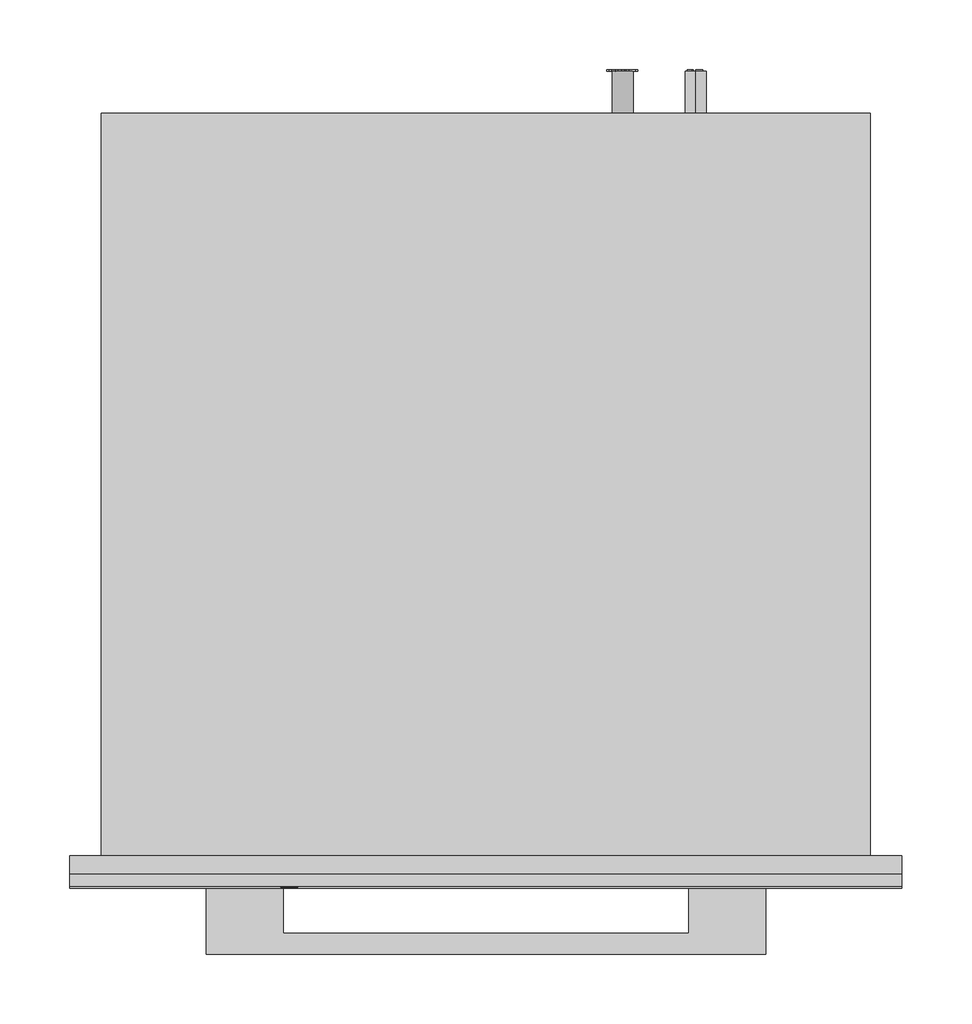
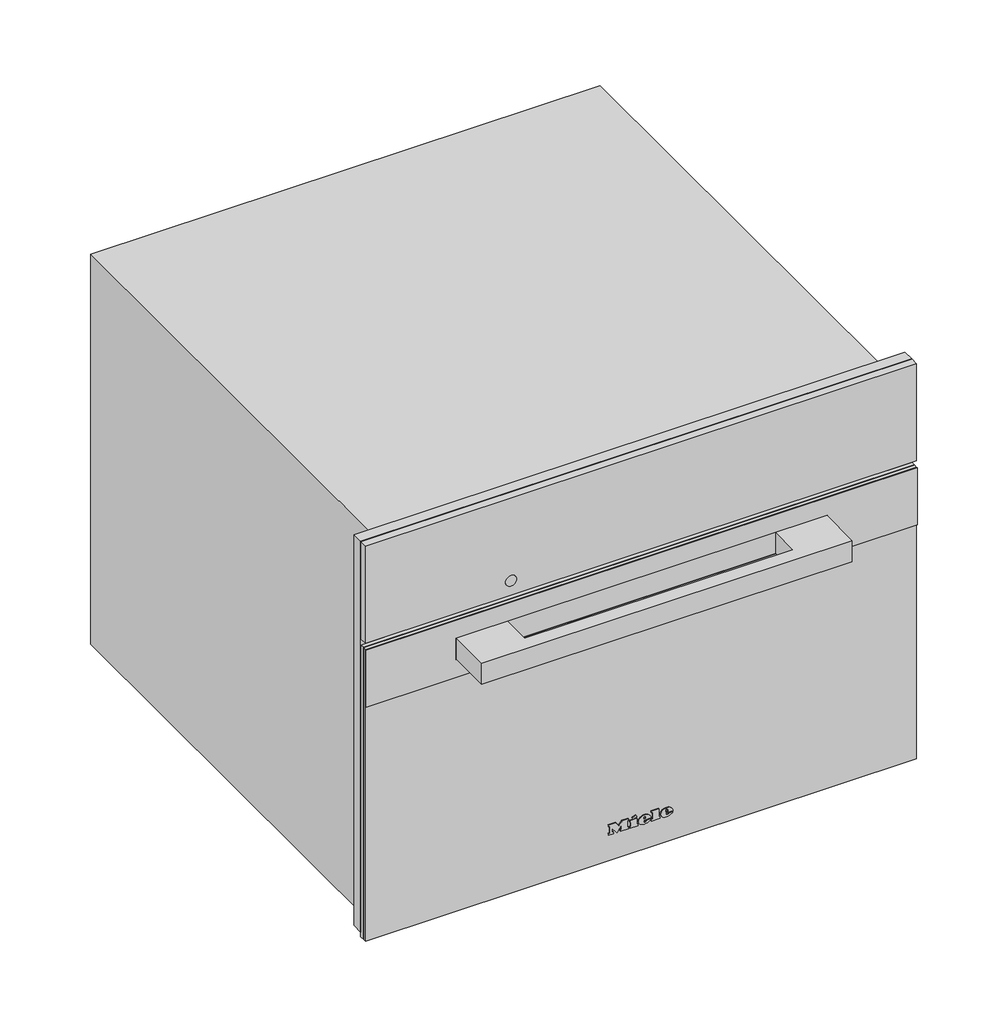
# Not in any storey: 1 proxy.
"""IFC4 building model written with IfcOpenShell, lengths in millimetres."""

import ifcopenshell
import ifcopenshell.guid

model = None  # the IFC model being written
_history = None  # IfcOwnerHistory: only IFC2X3 demands one
_inside = {}  # id of a spatial element -> (the spatial element, [elements in it])
_under = {}  # id of a project, library or spatial element -> (it, [spatial elements below it])
_declared = {}  # id of a project -> (the project, [libraries it declares])
_typed = {}  # id of a type object -> (the type object, [elements of that type])
_made_of = {}  # id of a material, layer set ... -> (it, [elements and type objects made of it])


def new_model(schema):
    """Start an empty IFC model of exactly this schema.

    Asked for "IFC4X3", IfcOpenShell would pick the latest addendum, in which some entities
    have other attributes; the version numbers below select the first issue.
    IFC2X3 requires an IfcOwnerHistory on every rooted entity: one is made here for all.
    """
    global model, _history
    if schema == "IFC4X3":
        model = ifcopenshell.file(schema_version=(4, 3, 0, 0))
    else:
        model = ifcopenshell.file(schema=schema)
    _inside.clear()
    _under.clear()
    _declared.clear()
    _typed.clear()
    _made_of.clear()
    _history = None
    if model.schema == "IFC2X3":
        org = make("IfcOrganization", Name="unknown")
        user = make(
            "IfcPersonAndOrganization",
            ThePerson=make("IfcPerson", FamilyName="unknown"),
            TheOrganization=org,
        )
        app = make(
            "IfcApplication",
            ApplicationDeveloper=org,
            Version="unknown",
            ApplicationFullName="unknown",
            ApplicationIdentifier="unknown",
        )
        _history = make(
            "IfcOwnerHistory",
            OwningUser=user,
            OwningApplication=app,
            ChangeAction="ADDED",
            CreationDate=0,
        )
    return model


def make(cls, **values):
    """One entity of the class cls with the attributes given. An attribute that is None is left unset."""
    return model.create_entity(
        cls, **{name: value for name, value in values.items() if value is not None}
    )


def rooted(cls, **values):
    """An entity with a GlobalId (a new one), such as an element, a storey or a relation."""
    return make(cls, GlobalId=ifcopenshell.guid.new(), OwnerHistory=_history, **values)


def si_unit(unit_type, name, prefix=None):
    """IfcSIUnit, for example si_unit("LENGTHUNIT", "METRE", prefix="MILLI")."""
    return make("IfcSIUnit", UnitType=unit_type, Prefix=prefix, Name=name)


def assignment(units):
    """IfcUnitAssignment: the units of a project."""
    return None if units is None else make("IfcUnitAssignment", Units=units)


def point(xyz):
    """IfcCartesianPoint."""
    return None if xyz is None else make("IfcCartesianPoint", Coordinates=xyz)


def direction(xyz):
    """IfcDirection."""
    return None if xyz is None else make("IfcDirection", DirectionRatios=xyz)


def frame(location, z_axis=None, x_axis=None):
    """IfcAxis2Placement3D, a coordinate frame: its origin and axes. An axis left out is left unset."""
    return make(
        "IfcAxis2Placement3D",
        Location=point(location),
        Axis=direction(z_axis),
        RefDirection=direction(x_axis),
    )


def frame_2d(location, x_axis=None):
    """IfcAxis2Placement2D, a coordinate frame in the plane: its origin and x axis."""
    return make(
        "IfcAxis2Placement2D", Location=point(location), RefDirection=direction(x_axis)
    )


def origin():
    """The frame at (0, 0, 0) with its axes left unset."""
    return frame((0.0, 0.0, 0.0))


def place(relative_to, where):
    """IfcLocalPlacement: puts the frame where relative to a parent placement (None: the world)."""
    return make(
        "IfcLocalPlacement", PlacementRelTo=relative_to, RelativePlacement=where
    )


def context(
    kind, dimensions, precision=None, world=None, true_north=None, identifier=None
):
    """IfcGeometricRepresentationContext, for example the 3D "Model" context."""
    return make(
        "IfcGeometricRepresentationContext",
        ContextIdentifier=identifier,
        ContextType=kind,
        CoordinateSpaceDimension=dimensions,
        Precision=precision,
        WorldCoordinateSystem=world,
        TrueNorth=true_north,
    )


def project(units=None, contexts=None):
    """IfcProject with its units and contexts."""
    return rooted(
        "IfcProject",
        Name="project",
        RepresentationContexts=contexts,
        UnitsInContext=assignment(units),
    )


def spatial(cls, under=None, at=None, **own):
    """A site, building, storey or space (cls), placed at a placement, below another one or the project."""
    s = rooted(cls, ObjectPlacement=at, **own)
    if under is not None:
        _under.setdefault(under.id(), (under, []))[1].append(s)
    return s


def polyline(points):
    """IfcPolyline through the points."""
    return make("IfcPolyline", Points=[point(p) for p in points])


def circle_curve(where, radius):
    """IfcCircle in the frame where."""
    return make("IfcCircle", Position=where, Radius=radius)


def ellipse_curve(where, semi_axis1, semi_axis2):
    """IfcEllipse in the frame where."""
    return make(
        "IfcEllipse", Position=where, SemiAxis1=semi_axis1, SemiAxis2=semi_axis2
    )


def trimmed(basis, trim1, trim2, sense, master):
    """IfcTrimmedCurve: the piece of a basis curve between two trims."""
    return make(
        "IfcTrimmedCurve",
        BasisCurve=basis,
        Trim1=trim1,
        Trim2=trim2,
        SenseAgreement=sense,
        MasterRepresentation=master,
    )


def segment(curve, same_sense, transition):
    """IfcCompositeCurveSegment."""
    return make(
        "IfcCompositeCurveSegment",
        Transition=transition,
        SameSense=same_sense,
        ParentCurve=curve,
    )


def composite_curve(segments, self_intersect=None):
    """IfcCompositeCurve: segments joined end to end."""
    return make("IfcCompositeCurve", Segments=segments, SelfIntersect=self_intersect)


def outline(outer, holes=None, kind="AREA"):
    """IfcArbitraryClosedProfileDef: a profile drawn as a closed curve; with holes, ...WithVoids."""
    if holes is None:
        return make("IfcArbitraryClosedProfileDef", ProfileType=kind, OuterCurve=outer)
    return make(
        "IfcArbitraryProfileDefWithVoids",
        ProfileType=kind,
        OuterCurve=outer,
        InnerCurves=holes,
    )


def extrude(swept, where, along, depth):
    """IfcExtrudedAreaSolid: the profile swept, set in the frame where, extruded along a direction by depth."""
    return make(
        "IfcExtrudedAreaSolid",
        SweptArea=swept,
        Position=where,
        ExtrudedDirection=direction(along),
        Depth=depth,
    )


def faces_of(points, faces, orient=None, outer=None):
    """IfcFace entities. A face is a list of loops; a loop is a list of indices into points, from 0.

    orient and outer hold one flag for each loop. By default every Orientation is true, the
    first loop of a face is its IfcFaceOuterBound and the others are IfcFaceBound.
    """
    made = []
    for i, loops in enumerate(faces):
        bounds = []
        for j, loop in enumerate(loops):
            is_outer = j == 0 if outer is None else outer[i][j]
            bounds.append(
                make(
                    "IfcFaceOuterBound" if is_outer else "IfcFaceBound",
                    Bound=make("IfcPolyLoop", Polygon=[points[k] for k in loop]),
                    Orientation=True if orient is None else orient[i][j],
                )
            )
        made.append(make("IfcFace", Bounds=bounds))
    return made


def faceted_brep(points, faces, orient=None, outer=None, voids=None):
    """IfcFacetedBrep: a solid bounded by flat faces; with voids (closed shells), ...WithVoids."""
    shared = [point(p) for p in points]
    hull = make("IfcClosedShell", CfsFaces=faces_of(shared, faces, orient, outer))
    if voids is None:
        return make("IfcFacetedBrep", Outer=hull)
    return make(
        "IfcFacetedBrepWithVoids",
        Outer=hull,
        Voids=[
            make(cls, CfsFaces=faces_of(shared, fs, o, b)) for cls, fs, o, b in voids
        ],
    )


def shape(context_of_items, identifier, shape_type, items):
    """IfcShapeRepresentation: the items that make up one representation, for example the "Body"."""
    return make(
        "IfcShapeRepresentation",
        ContextOfItems=context_of_items,
        RepresentationIdentifier=identifier,
        RepresentationType=shape_type,
        Items=items,
    )


def source(mapping_origin, context_of_items, identifier, shape_type, items):
    """IfcRepresentationMap: a shape defined once, which mapped items show again and again."""
    return make(
        "IfcRepresentationMap",
        MappingOrigin=mapping_origin,
        MappedRepresentation=shape(context_of_items, identifier, shape_type, items),
    )


def transform(
    local_origin,
    x_axis=None,
    y_axis=None,
    z_axis=None,
    scale=None,
    scale2=None,
    scale3=None,
    uniform=True,
):
    """IfcCartesianTransformationOperator3D, or its non-uniform kind. x_axis, y_axis, z_axis: its Axis1, 2, 3."""
    if uniform:
        return make(
            "IfcCartesianTransformationOperator3D",
            Axis1=direction(x_axis),
            Axis2=direction(y_axis),
            LocalOrigin=point(local_origin),
            Scale=scale,
            Axis3=direction(z_axis),
        )
    return make(
        "IfcCartesianTransformationOperator3DnonUniform",
        Axis1=direction(x_axis),
        Axis2=direction(y_axis),
        LocalOrigin=point(local_origin),
        Scale=scale,
        Axis3=direction(z_axis),
        Scale2=scale2,
        Scale3=scale3,
    )


def mapped(mapping_source, mapping_target):
    """IfcMappedItem: shows the shape of a source again, moved by a transform."""
    return make(
        "IfcMappedItem", MappingSource=mapping_source, MappingTarget=mapping_target
    )


def made_of(thing, what):
    """Note that an element or type object is made of a material, layer set ...; save() writes the relation."""
    if what is not None:
        _made_of.setdefault(what.id(), (what, []))[1].append(thing)
    return thing


def element(
    cls,
    number,
    at=None,
    inside=None,
    cuts=None,
    type_object=None,
    material=None,
    context=None,
    identifier="Body",
    shape_type=None,
    held_by="IfcProductDefinitionShape",
    body=None,
    shapes=None,
    **own,
):
    """One element of the class cls, such as IfcWall. Its Tag is "e" and its number.

    at: its placement. inside: the storey or other place that contains it. cuts: it is an
    opening in that element (IfcRelVoidsElement). A single representation is given by context,
    identifier, shape_type and body (its items); several are given by shapes. held_by: the class
    of the entity that holds the representations. save() writes the other relations.
    """
    e = rooted(cls, Tag="e%d" % number, ObjectPlacement=at, **own)
    if body is not None:
        shapes = [shape(context, identifier, shape_type, body)]
    if shapes is not None:
        e.Representation = make(held_by, Representations=shapes)
    if inside is not None:
        _inside.setdefault(inside.id(), (inside, []))[1].append(e)
    if cuts is not None:
        rooted(
            "IfcRelVoidsElement", RelatingBuildingElement=cuts, RelatedOpeningElement=e
        )
    if type_object is not None:
        _typed.setdefault(type_object.id(), (type_object, []))[1].append(e)
    return made_of(e, material)


def aggregate(whole, parts):
    """IfcRelAggregates: a whole, such as a stair, and the parts it consists of."""
    return rooted("IfcRelAggregates", RelatingObject=whole, RelatedObjects=parts)


def save(model, path):
    """Write the relations noted so far, then the file.

    IfcRelAggregates (storeys below a building ...), IfcRelContainedInSpatialStructure (elements
    in a storey), IfcRelDefinesByType, IfcRelAssociatesMaterial and IfcRelDeclares: one each for
    every whole, place, type object, material and project.
    """
    for whole, parts in _under.values():
        aggregate(whole, parts)
    for where, things in _inside.values():
        rooted(
            "IfcRelContainedInSpatialStructure",
            RelatedElements=things,
            RelatingStructure=where,
        )
    for kind, things in _typed.values():
        rooted("IfcRelDefinesByType", RelatedObjects=things, RelatingType=kind)
    for what, things in _made_of.values():
        rooted("IfcRelAssociatesMaterial", RelatedObjects=things, RelatingMaterial=what)
    for by, libraries in _declared.values():
        rooted("IfcRelDeclares", RelatingContext=by, RelatedDefinitions=libraries)
    model.write(path)


def plane_surface(at):
    """IfcPlane: the flat surface through the origin of the frame at, square to its z axis."""
    return make("IfcPlane", Position=at)


def cylinder_surface(at, radius):
    """IfcCylindricalSurface: all points at the distance radius from the z axis of the frame at."""
    return make("IfcCylindricalSurface", Position=at, Radius=radius)


def revolved_surface(curve, axis_point, axis_direction):
    """IfcSurfaceOfRevolution: the curve turned about the line through axis_point along axis_direction."""
    return make(
        "IfcSurfaceOfRevolution",
        SweptCurve=make("IfcArbitraryOpenProfileDef", ProfileType="CURVE", Curve=curve),
        AxisPosition=make("IfcAxis1Placement", Location=point(axis_point), Axis=direction(axis_direction)),
    )


def extruded_surface(curve, direction_of_extrusion, depth):
    """IfcSurfaceOfLinearExtrusion: the curve pushed along a direction by depth."""
    return make(
        "IfcSurfaceOfLinearExtrusion",
        SweptCurve=make("IfcArbitraryOpenProfileDef", ProfileType="CURVE", Curve=curve),
        ExtrudedDirection=direction(direction_of_extrusion),
        Depth=depth,
    )


def advanced_brep(points, edges, surfaces, faces):
    """IfcAdvancedBrep: a solid bounded by faces that lie on surfaces and meet in shared edges.

    An edge is (start, end): straight between two places in points (the first is 0);
    or (start, end, curve); or (start, end, curve, False) where it runs against its curve.
    A face is (place in surfaces, loops), or (place, loops, False) where it looks against
    its surface's normal. A loop lists edges by number (the first is 1), with a minus sign
    where the edge is run from its end to its start. The first loop is the outer one.
    """
    corners = [point(p) for p in points]
    vertices = [make("IfcVertexPoint", VertexGeometry=c) for c in corners]
    made = []
    for start, end, *more in edges:
        made.append(
            make(
                "IfcEdgeCurve",
                EdgeStart=vertices[start],
                EdgeEnd=vertices[end],
                EdgeGeometry=more[0] if more else make("IfcPolyline", Points=[corners[start], corners[end]]),
                SameSense=more[1] if len(more) > 1 else True,
            )
        )
    hull = []
    for where, loops, *sense in faces:
        bounds = []
        for j, loop in enumerate(loops):
            ring = [make("IfcOrientedEdge", EdgeElement=made[abs(k) - 1], Orientation=k > 0) for k in loop]
            bounds.append(
                make(
                    "IfcFaceOuterBound" if j == 0 else "IfcFaceBound",
                    Bound=make("IfcEdgeLoop", EdgeList=ring),
                    Orientation=True,
                )
            )
        hull.append(make("IfcAdvancedFace", Bounds=bounds, FaceSurface=surfaces[where], SameSense=sense[0] if sense else True))
    return make("IfcAdvancedBrep", Outer=make("IfcClosedShell", CfsFaces=hull))


def specialty_equipment_ff86a98f(model_context):
    return source(origin(), model_context, "Body", "SolidModel", [
        extrude(outline(polyline([(455.0, 297.5), (455.0, -297.5), (9.0, -297.5), (9.0, -272.5), (344.0, -272.5), (344.0, 272.5), (9.0, 272.5), (9.0, 297.5), (455.0, 297.5)])), frame((0.0, -13.0, 0.0), z_axis=(0.0, 1.0, 0.0), x_axis=(0.0, 0.0, 1.0)), (0.0, 0.0, 1.0), 13.0),
        extrude(outline(polyline([(378.0, 95.9217896), (378.0, 97.4267862), (388.0435673, 100.1942402), (388.0435673, 98.9014806), (379.4295103, 96.7797951), (388.0470645, 94.3087512), (388.0470645, 92.4373937), (379.4121052, 89.9191482), (388.0472266, 87.8443938), (388.0472266, 86.5376524), (378.0, 89.2769667), (378.0, 90.6257455), (386.8347238, 93.3884733), (378.0, 95.9217896)])), frame((0.0, 561.0, 0.0), z_axis=(0.0, 1.0, 0.0), x_axis=(0.0, 0.0, 1.0)), (0.0, 0.0, 1.0), 1.0),
        extrude(outline(polyline([(388.0468463, 108.521488), (388.0468463, 107.2566067), (383.129594, 107.2566067), (388.0474898, 102.1074328), (388.0474898, 100.3597489), (383.9313111, 104.6695027), (378.0, 100.1858157), (378.0, 101.7358731), (383.0700777, 105.5685235), (381.4282746, 107.2823622), (378.0, 107.2823622), (378.0, 108.521488), (388.0468463, 108.521488)])), frame((0.0, 561.0, 0.0), z_axis=(0.0, 1.0, 0.0), x_axis=(0.0, 0.0, 1.0)), (0.0, 0.0, 1.0), 1.0),
        advanced_brep(
        [(150.0, 561.0, 410.5), (150.0, 561.0, 395.5), (144.4098301, 561.0, 398.0), (148.5, 561.0, 398.0), (148.5, 561.0, 408.0), (147.4955303, 561.0, 408.0), (147.4955303, 561.0, 399.0), (144.0315043, 561.0, 399.0), (144.0315043, 561.0, 398.4582978), (155.0, 561.0, 398.0), (155.0, 561.0, 408.0), (150.0, 561.0, 408.0), (150.0, 561.0, 407.0), (154.0, 561.0, 407.0), (154.0, 561.0, 403.5), (151.0, 561.0, 403.5), (151.0, 561.0, 402.5), (154.0, 561.0, 402.5), (154.0, 561.0, 399.0), (150.0, 561.0, 399.0), (150.0, 561.0, 398.0), (150.0, 531.0, 395.5), (150.0, 531.0, 410.5), (155.0, 562.0, 408.0), (155.0, 562.0, 398.0), (150.0, 562.0, 398.0), (150.0, 562.0, 399.0), (154.0, 562.0, 399.0), (154.0, 562.0, 402.5), (151.0, 562.0, 402.5), (151.0, 562.0, 403.5), (154.0, 562.0, 403.5), (154.0, 562.0, 407.0), (150.0, 562.0, 407.0), (150.0, 562.0, 408.0), (148.5, 562.0, 398.0), (144.0315043, 562.0, 398.0), (144.0315043, 562.0, 399.0), (147.4955303, 562.0, 399.0), (147.4955303, 562.0, 408.0), (148.5, 562.0, 408.0), (144.0315043, 561.0, 398.0)],
        [
            (0, 1, circle_curve(frame((150.0, 561.0, 403.0), z_axis=(0.0, 1.0, 0.0), x_axis=(0.0, 0.0, 1.0)), 7.5)),
            (1, 2, circle_curve(frame((150.0, 561.0, 403.0), z_axis=(0.0, 1.0, 0.0), x_axis=(0.0, 0.0, 1.0)), 7.5)),
            (2, 3),
            (3, 4),
            (4, 5),
            (5, 6),
            (6, 7),
            (7, 8),
            (8, 0, circle_curve(frame((150.0, 561.0, 403.0), z_axis=(0.0, 1.0, 0.0), x_axis=(0.0, 0.0, 1.0)), 7.5)),
            (9, 10),
            (10, 11),
            (11, 12),
            (12, 13),
            (13, 14),
            (14, 15),
            (15, 16),
            (16, 17),
            (17, 18),
            (18, 19),
            (19, 20),
            (20, 9),
            (21, 22, circle_curve(frame((150.0, 531.0, 403.0), z_axis=(0.0, -1.0, 0.0), x_axis=(0.0, 0.0, 1.0)), 7.5)),
            (22, 21, circle_curve(frame((150.0, 531.0, 403.0), z_axis=(0.0, -1.0, 0.0), x_axis=(0.0, 0.0, 1.0)), 7.5)),
            (0, 22),
            (21, 1),
            (8, 2, circle_curve(frame((150.0, 561.0, 403.0), z_axis=(0.0, -1.0, 0.0), x_axis=(0.0, 0.0, 1.0)), 7.5)),
            (23, 24),
            (24, 25),
            (25, 26),
            (26, 27),
            (27, 28),
            (28, 29),
            (29, 30),
            (30, 31),
            (31, 32),
            (32, 33),
            (33, 34),
            (34, 23),
            (35, 36),
            (36, 37),
            (37, 38),
            (38, 39),
            (39, 40),
            (40, 35),
            (8, 41),
            (41, 2),
            (23, 10),
            (9, 24),
            (20, 25),
            (19, 26),
            (18, 27),
            (17, 28),
            (16, 29),
            (15, 30),
            (14, 31),
            (13, 32),
            (12, 33),
            (11, 34),
            (35, 3),
            (41, 36),
            (7, 37),
            (6, 38),
            (5, 39),
            (4, 40),
        ],
        [
            plane_surface(frame((150.0, 561.0, 410.5), z_axis=(0.0, 1.0, 0.0), x_axis=(1.0, 0.0, 0.0))),
            plane_surface(frame((150.0, 531.0, 410.5), z_axis=(0.0, -1.0, 0.0), x_axis=(-1.0, 0.0, 0.0))),
            cylinder_surface(frame((150.0, 561.0, 403.0), z_axis=(0.0, -1.0, 0.0), x_axis=(0.0, 0.0, 1.0)), 7.5),
            plane_surface(frame((155.0, 562.0, 408.0), z_axis=(0.0, 1.0, 0.0), x_axis=(0.0, 0.0, -1.0))),
            plane_surface(frame((155.0, 561.0, 408.0), z_axis=(0.0, -1.0, 0.0), x_axis=(0.0, 0.0, 1.0))),
            plane_surface(frame((155.0, 562.0, 408.0), z_axis=(1.0, 0.0, 0.0), x_axis=(0.0, -1.0, 0.0))),
            plane_surface(frame((155.0, 562.0, 398.0), z_axis=(0.0, 0.0, -1.0), x_axis=(0.0, -1.0, 0.0))),
            plane_surface(frame((150.0, 562.0, 398.0), z_axis=(-1.0, 0.0, 0.0), x_axis=(0.0, -1.0, 0.0))),
            plane_surface(frame((150.0, 562.0, 399.0), z_axis=(0.0, 0.0, 1.0), x_axis=(0.0, -1.0, 0.0))),
            plane_surface(frame((154.0, 562.0, 399.0), z_axis=(-1.0, 0.0, 0.0), x_axis=(0.0, -1.0, 0.0))),
            plane_surface(frame((154.0, 562.0, 402.5), z_axis=(0.0, 0.0, -1.0), x_axis=(0.0, -1.0, 0.0))),
            plane_surface(frame((151.0, 562.0, 402.5), z_axis=(-1.0, 0.0, 0.0), x_axis=(0.0, -1.0, 0.0))),
            plane_surface(frame((151.0, 562.0, 403.5), z_axis=(0.0, 0.0, 1.0), x_axis=(0.0, -1.0, 0.0))),
            plane_surface(frame((154.0, 562.0, 403.5), z_axis=(-1.0, 0.0, 0.0), x_axis=(0.0, -1.0, 0.0))),
            plane_surface(frame((154.0, 562.0, 407.0), z_axis=(0.0, 0.0, -1.0), x_axis=(0.0, -1.0, 0.0))),
            plane_surface(frame((150.0, 562.0, 407.0), z_axis=(-1.0, 0.0, 0.0), x_axis=(0.0, -1.0, 0.0))),
            plane_surface(frame((150.0, 562.0, 408.0), z_axis=(0.0, 0.0, 1.0), x_axis=(0.0, -1.0, 0.0))),
            plane_surface(frame((148.5, 562.0, 398.0), z_axis=(0.0, 0.0, -1.0), x_axis=(0.0, -1.0, 0.0))),
            plane_surface(frame((144.0315043, 562.0, 398.0), z_axis=(-1.0, 0.0, 0.0), x_axis=(0.0, -1.0, 0.0))),
            plane_surface(frame((144.0315043, 562.0, 399.0), z_axis=(0.0, 0.0, 1.0), x_axis=(0.0, -1.0, 0.0))),
            plane_surface(frame((147.4955303, 562.0, 399.0), z_axis=(-1.0, 0.0, 0.0), x_axis=(0.0, -1.0, 0.0))),
            plane_surface(frame((147.4955303, 562.0, 408.0), z_axis=(0.0, 0.0, 1.0), x_axis=(0.0, -1.0, 0.0))),
            plane_surface(frame((148.5, 562.0, 408.0), z_axis=(1.0, 0.0, 0.0), x_axis=(0.0, -1.0, 0.0))),
        ],
        [
            (0, [[1, 2, 3, 4, 5, 6, 7, 8, 9], [10, 11, 12, 13, 14, 15, 16, 17, 18, 19, 20, 21]]),
            (1, [[22, 23]]),
            (2, [[-1, 24, -22, 25]]),
            (2, [[-23, -24, -9, 26, -2, -25]]),
            (3, [[27, 28, 29, 30, 31, 32, 33, 34, 35, 36, 37, 38]]),
            (3, [[39, 40, 41, 42, 43, 44]]),
            (4, [[45, 46, -26]]),
            (5, [[-27, 47, -10, 48]]),
            (6, [[-28, -48, -21, 49]]),
            (7, [[-29, -49, -20, 50]]),
            (8, [[-30, -50, -19, 51]]),
            (9, [[-31, -51, -18, 52]]),
            (10, [[-32, -52, -17, 53]]),
            (11, [[-33, -53, -16, 54]]),
            (12, [[-34, -54, -15, 55]]),
            (13, [[-35, -55, -14, 56]]),
            (14, [[-36, -56, -13, 57]]),
            (15, [[-37, -57, -12, 58]]),
            (16, [[-38, -58, -11, -47]]),
            (17, [[-39, 59, -3, -46, 60]]),
            (18, [[-40, -60, -45, -8, 61]]),
            (19, [[-41, -61, -7, 62]]),
            (20, [[-42, -62, -6, 63]]),
            (21, [[-43, -63, -5, 64]]),
            (22, [[-44, -64, -4, -59]]),
        ],
    ),
        extrude(outline(composite_curve([segment(trimmed(circle_curve(frame_2d((383.0, 98.0)), 7.5), [point((383.0, 105.5))], [point((383.0, 90.5))], False, "CARTESIAN"), True, "CONTINUOUS"), segment(trimmed(circle_curve(frame_2d((383.0, 98.0)), 7.5), [point((383.0, 90.5))], [point((383.0, 105.5))], False, "CARTESIAN"), True, "CONTINUOUS")], self_intersect=False)), frame((0.0, 531.0, 0.0), z_axis=(0.0, 1.0, 0.0), x_axis=(0.0, 0.0, 1.0)), (0.0, 0.0, 1.0), 30.0),
        faceted_brep([(275.0, 531.0, 445.0), (275.0, 531.0, 0.0), (-275.0, 531.0, 0.0), (-275.0, 531.0, 445.0), (275.0, 0.0, 445.0), (-275.0, 0.0, 445.0), (-275.0, 0.0, 0.0), (275.0, 0.0, 0.0), (-272.5, 0.0, 344.0), (272.5, 0.0, 344.0), (272.5, 0.0, 8.0), (-272.5, 0.0, 8.0), (272.5, 12.0, 344.0), (-272.5, 12.0, 344.0), (-272.5, 12.0, 8.0), (272.5, 12.0, 8.0), (161.0, 12.0, 286.0), (161.0, 12.0, 58.0), (-220.0, 12.0, 58.0), (-220.0, 12.0, 286.0), (161.0, 419.0, 286.0), (-220.0, 419.0, 286.0), (-220.0, 419.0, 58.0), (161.0, 419.0, 58.0)], [[[0, 1, 2, 3]], [[4, 5, 6, 7], [8, 9, 10, 11]], [[0, 3, 5, 4]], [[3, 2, 6, 5]], [[2, 1, 7, 6]], [[1, 0, 4, 7]], [[12, 13, 14, 15], [16, 17, 18, 19]], [[13, 12, 9, 8]], [[14, 13, 8, 11]], [[15, 14, 11, 10]], [[12, 15, 10, 9]], [[20, 21, 22, 23]], [[20, 23, 17, 16]], [[23, 22, 18, 17]], [[22, 21, 19, 18]], [[21, 20, 16, 19]]]),
        advanced_brep(
        [(26.2998, -23.0, 36.7018), (26.2998, -23.0, 37.8532), (33.9264, -23.0, 37.8532), (20.6568, -23.0, 37.8532), (23.7918, -23.0, 34.0), (33.7326, -23.0, 36.7018), (30.2898, -23.0, 36.7018), (27.5766, -23.0, 35.425), (26.2998, -23.0, 39.3124), (26.2998, -23.0, 40.555), (28.2492, -23.0, 40.555), (28.2492, -23.0, 39.3124), (26.2998, -22.0, 36.7018), (27.5766, -22.0, 35.425), (30.2898, -22.0, 36.7018), (33.7326, -22.0, 36.7018), (23.7918, -22.0, 34.0), (20.6568, -22.0, 37.8532), (33.9264, -22.0, 37.8532), (26.2998, -22.0, 37.8532), (26.2998, -22.0, 39.3124), (28.2492, -22.0, 39.3124), (28.2492, -22.0, 40.555), (26.2998, -22.0, 40.555)],
        [
            (0, 1),
            (1, 2),
            (2, 3, ellipse_curve(frame((27.2916, -23.0, 37.8532), z_axis=(0.0, -1.0, 0.0), x_axis=(-1.0, 0.0, 0.0)), 6.6348, 5.4834)),
            (3, 4, circle_curve(frame((25.0686622, -23.0, 38.2408), z_axis=(0.0, -1.0, 0.0), x_axis=(0.0, 0.0, -1.0)), 4.4288556)),
            (4, 5, circle_curve(frame((27.1587808, -23.0, 41.2504), z_axis=(0.0, -1.0, 0.0), x_axis=(0.0, 0.0, -1.0)), 7.9940516)),
            (5, 6),
            (6, 7, circle_curve(frame((28.1338588, -23.0, 37.762), z_axis=(0.0, 1.0, 0.0), x_axis=(0.0, 0.0, -1.0)), 2.4025208)),
            (7, 0, circle_curve(frame((27.5766, -23.0, 36.7018), z_axis=(0.0, 1.0, 0.0), x_axis=(0.0, 0.0, -1.0)), 1.2768)),
            (8, 9),
            (9, 10, circle_curve(frame((27.2745, -23.0, 40.555), z_axis=(0.0, 1.0, 0.0), x_axis=(0.0, 0.0, -1.0)), 0.9747)),
            (10, 11),
            (11, 8),
            (12, 13, circle_curve(frame((27.5766, -22.0, 36.7018), z_axis=(0.0, -1.0, 0.0), x_axis=(0.0, 0.0, -1.0)), 1.2768)),
            (13, 14, circle_curve(frame((28.1338588, -22.0, 37.762), z_axis=(0.0, -1.0, 0.0), x_axis=(0.0, 0.0, -1.0)), 2.4025208)),
            (14, 15),
            (15, 16, circle_curve(frame((27.1587808, -22.0, 41.2504), z_axis=(0.0, 1.0, 0.0), x_axis=(0.0, 0.0, -1.0)), 7.9940516)),
            (16, 17, circle_curve(frame((25.0686622, -22.0, 38.2408), z_axis=(0.0, 1.0, 0.0), x_axis=(0.0, 0.0, -1.0)), 4.4288556)),
            (17, 18, ellipse_curve(frame((27.2916, -22.0, 37.8532), z_axis=(0.0, 1.0, 0.0), x_axis=(-1.0, 0.0, 0.0)), 6.6348, 5.4834)),
            (18, 19),
            (19, 12),
            (20, 21),
            (21, 22),
            (22, 23, circle_curve(frame((27.2745, -22.0, 40.555), z_axis=(0.0, -1.0, 0.0), x_axis=(0.0, 0.0, -1.0)), 0.9747)),
            (23, 20),
            (0, 12),
            (19, 1),
            (18, 2),
            (5, 15),
            (14, 6),
            (17, 3),
            (13, 7),
            (16, 4),
            (8, 20),
            (23, 9),
            (22, 10),
            (21, 11),
        ],
        [
            plane_surface(frame((26.2998, -23.0, 37.8532), z_axis=(0.0, -1.0, 0.0), x_axis=(0.0, 0.0, 1.0))),
            plane_surface(frame((26.2998, -22.0, 37.8532), z_axis=(0.0, 1.0, 0.0), x_axis=(0.0, 0.0, -1.0))),
            plane_surface(frame((26.2998, -23.0, 36.7018), z_axis=(1.0, 0.0, 0.0), x_axis=(0.0, 1.0, 0.0))),
            plane_surface(frame((26.2998, -23.0, 37.8532), z_axis=(0.0, 0.0, -1.0), x_axis=(0.0, 1.0, 0.0))),
            plane_surface(frame((33.7326, -23.0, 36.7018), z_axis=(0.0, 0.0, 1.0), x_axis=(0.0, 1.0, 0.0))),
            extruded_surface(trimmed(ellipse_curve(frame((27.2916, -21.0, 37.8532), z_axis=(0.0, -1.0, 0.0), x_axis=(-1.0, 0.0, 0.0)), 6.6348, 5.4834), [point((33.9264, -21.0, 37.8532))], [point((20.6568, -21.0, 37.8532))], True, "CARTESIAN"), (0.0, -1.0, 0.0), 1.0),
            revolved_surface(polyline([(28.1338588, -22.0, 35.3594792), (28.1338588, -23.0, 35.3594792)]), (28.1338588, -22.0, 37.762), (0.0, 1.0, 0.0)),
            revolved_surface(polyline([(27.5766, -22.0, 35.425), (27.5766, -23.0, 35.425)]), (27.5766, -22.0, 36.7018), (0.0, 1.0, 0.0)),
            cylinder_surface(frame((25.0686622, -22.0, 38.2408), z_axis=(0.0, -1.0, 0.0), x_axis=(0.0, 0.0, -1.0)), 4.4288556),
            cylinder_surface(frame((27.1587808, -22.0, 41.2504), z_axis=(0.0, -1.0, 0.0), x_axis=(0.0, 0.0, -1.0)), 7.9940516),
            plane_surface(frame((26.2998, -23.0, 39.3124), z_axis=(1.0, 0.0, 0.0), x_axis=(0.0, 1.0, 0.0))),
            revolved_surface(polyline([(27.2745, -22.0, 39.5803), (27.2745, -23.0, 39.5803)]), (27.2745, -22.0, 40.555), (0.0, 1.0, 0.0)),
            plane_surface(frame((28.2492, -23.0, 40.555), z_axis=(-1.0, 0.0, 0.0), x_axis=(0.0, 1.0, 0.0))),
            plane_surface(frame((28.2492, -23.0, 39.3124), z_axis=(0.0, 0.0, 1.0), x_axis=(0.0, 1.0, 0.0))),
        ],
        [
            (0, [[1, 2, 3, 4, 5, 6, 7, 8], [9, 10, 11, 12]]),
            (1, [[13, 14, 15, 16, 17, 18, 19, 20], [21, 22, 23, 24]]),
            (2, [[-1, 25, -20, 26]]),
            (3, [[-2, -26, -19, 27]]),
            (4, [[-6, 28, -15, 29]]),
            (5, [[-3, -27, -18, 30]]),
            (6, [[-7, -29, -14, 31]]),
            (7, [[-8, -31, -13, -25]]),
            (8, [[-4, -30, -17, 32]]),
            (9, [[-5, -32, -16, -28]]),
            (10, [[-9, 33, -24, 34]]),
            (11, [[-10, -34, -23, 35]]),
            (12, [[-11, -35, -22, 36]]),
            (13, [[-12, -36, -21, -33]]),
        ],
    ),
        advanced_brep(
        [(2.508, -23.0, 36.7018), (2.508, -23.0, 37.8532), (10.1346, -23.0, 37.8532), (-3.135, -23.0, 37.8532), (0.0, -23.0, 34.0), (9.9408, -23.0, 36.7018), (6.498, -23.0, 36.7018), (3.7848, -23.0, 35.425), (2.508, -23.0, 39.3124), (2.508, -23.0, 40.555), (4.4574, -23.0, 40.555), (4.4574, -23.0, 39.3124), (2.508, -22.0, 36.7018), (3.7848, -22.0, 35.425), (6.498, -22.0, 36.7018), (9.9408, -22.0, 36.7018), (0.0, -22.0, 34.0), (-3.135, -22.0, 37.8532), (10.1346, -22.0, 37.8532), (2.508, -22.0, 37.8532), (2.508, -22.0, 39.3124), (4.4574, -22.0, 39.3124), (4.4574, -22.0, 40.555), (2.508, -22.0, 40.555)],
        [
            (0, 1),
            (1, 2),
            (2, 3, ellipse_curve(frame((3.4998, -23.0, 37.8532), z_axis=(0.0, -1.0, 0.0), x_axis=(-1.0, 0.0, 0.0)), 6.6348, 5.4834)),
            (3, 4, circle_curve(frame((1.2768622, -23.0, 38.2408), z_axis=(0.0, -1.0, 0.0), x_axis=(0.0, 0.0, -1.0)), 4.4288556)),
            (4, 5, circle_curve(frame((3.3669808, -23.0, 41.2504), z_axis=(0.0, -1.0, 0.0), x_axis=(0.0, 0.0, -1.0)), 7.9940516)),
            (5, 6),
            (6, 7, circle_curve(frame((4.3420588, -23.0, 37.762), z_axis=(0.0, 1.0, 0.0), x_axis=(0.0, 0.0, -1.0)), 2.4025208)),
            (7, 0, circle_curve(frame((3.7848, -23.0, 36.7018), z_axis=(0.0, 1.0, 0.0), x_axis=(0.0, 0.0, -1.0)), 1.2768)),
            (8, 9),
            (9, 10, circle_curve(frame((3.4827, -23.0, 40.555), z_axis=(0.0, 1.0, 0.0), x_axis=(0.0, 0.0, -1.0)), 0.9747)),
            (10, 11),
            (11, 8),
            (12, 13, circle_curve(frame((3.7848, -22.0, 36.7018), z_axis=(0.0, -1.0, 0.0), x_axis=(0.0, 0.0, -1.0)), 1.2768)),
            (13, 14, circle_curve(frame((4.3420588, -22.0, 37.762), z_axis=(0.0, -1.0, 0.0), x_axis=(0.0, 0.0, -1.0)), 2.4025208)),
            (14, 15),
            (15, 16, circle_curve(frame((3.3669808, -22.0, 41.2504), z_axis=(0.0, 1.0, 0.0), x_axis=(0.0, 0.0, -1.0)), 7.9940516)),
            (16, 17, circle_curve(frame((1.2768622, -22.0, 38.2408), z_axis=(0.0, 1.0, 0.0), x_axis=(0.0, 0.0, -1.0)), 4.4288556)),
            (17, 18, ellipse_curve(frame((3.4998, -22.0, 37.8532), z_axis=(0.0, 1.0, 0.0), x_axis=(-1.0, 0.0, 0.0)), 6.6348, 5.4834)),
            (18, 19),
            (19, 12),
            (20, 21),
            (21, 22),
            (22, 23, circle_curve(frame((3.4827, -22.0, 40.555), z_axis=(0.0, -1.0, 0.0), x_axis=(0.0, 0.0, -1.0)), 0.9747)),
            (23, 20),
            (0, 12),
            (19, 1),
            (18, 2),
            (5, 15),
            (14, 6),
            (17, 3),
            (13, 7),
            (16, 4),
            (8, 20),
            (23, 9),
            (22, 10),
            (21, 11),
        ],
        [
            plane_surface(frame((2.508, -23.0, 37.8532), z_axis=(0.0, -1.0, 0.0), x_axis=(0.0, 0.0, 1.0))),
            plane_surface(frame((2.508, -22.0, 37.8532), z_axis=(0.0, 1.0, 0.0), x_axis=(0.0, 0.0, -1.0))),
            plane_surface(frame((2.508, -23.0, 36.7018), z_axis=(1.0, 0.0, 0.0), x_axis=(0.0, 1.0, 0.0))),
            plane_surface(frame((2.508, -23.0, 37.8532), z_axis=(0.0, 0.0, -1.0), x_axis=(0.0, 1.0, 0.0))),
            plane_surface(frame((9.9408, -23.0, 36.7018), z_axis=(0.0, 0.0, 1.0), x_axis=(0.0, 1.0, 0.0))),
            extruded_surface(trimmed(ellipse_curve(frame((3.4998, -21.0, 37.8532), z_axis=(0.0, -1.0, 0.0), x_axis=(-1.0, 0.0, 0.0)), 6.6348, 5.4834), [point((10.1346, -21.0, 37.8532))], [point((-3.135, -21.0, 37.8532))], True, "CARTESIAN"), (0.0, -1.0, 0.0), 1.0),
            revolved_surface(polyline([(4.3420588, -22.0, 35.3594792), (4.3420588, -23.0, 35.3594792)]), (4.3420588, -22.0, 37.762), (0.0, 1.0, 0.0)),
            revolved_surface(polyline([(3.7848, -22.0, 35.425), (3.7848, -23.0, 35.425)]), (3.7848, -22.0, 36.7018), (0.0, 1.0, 0.0)),
            cylinder_surface(frame((1.2768622, -22.0, 38.2408), z_axis=(0.0, -1.0, 0.0), x_axis=(0.0, 0.0, -1.0)), 4.4288556),
            cylinder_surface(frame((3.3669808, -22.0, 41.2504), z_axis=(0.0, -1.0, 0.0), x_axis=(0.0, 0.0, -1.0)), 7.9940516),
            plane_surface(frame((2.508, -23.0, 39.3124), z_axis=(1.0, 0.0, 0.0), x_axis=(0.0, 1.0, 0.0))),
            revolved_surface(polyline([(3.4827, -22.0, 39.5803), (3.4827, -23.0, 39.5803)]), (3.4827, -22.0, 40.555), (0.0, 1.0, 0.0)),
            plane_surface(frame((4.4574, -23.0, 40.555), z_axis=(-1.0, 0.0, 0.0), x_axis=(0.0, 1.0, 0.0))),
            plane_surface(frame((4.4574, -23.0, 39.3124), z_axis=(0.0, 0.0, 1.0), x_axis=(0.0, 1.0, 0.0))),
        ],
        [
            (0, [[1, 2, 3, 4, 5, 6, 7, 8], [9, 10, 11, 12]]),
            (1, [[13, 14, 15, 16, 17, 18, 19, 20], [21, 22, 23, 24]]),
            (2, [[-1, 25, -20, 26]]),
            (3, [[-2, -26, -19, 27]]),
            (4, [[-6, 28, -15, 29]]),
            (5, [[-3, -27, -18, 30]]),
            (6, [[-7, -29, -14, 31]]),
            (7, [[-8, -31, -13, -25]]),
            (8, [[-4, -30, -17, 32]]),
            (9, [[-5, -32, -16, -28]]),
            (10, [[-9, 33, -24, 34]]),
            (11, [[-10, -34, -23, 35]]),
            (12, [[-11, -35, -22, 36]]),
            (13, [[-12, -36, -21, -33]]),
        ],
    ),
        extrude(outline(polyline([(44.7274, -9.9522), (42.8806, -9.0858), (44.6818, -5.2212), (46.5286, -6.0762), (44.7274, -9.9522)])), frame((0.0, -23.0, 0.0), z_axis=(0.0, 1.0, 0.0), x_axis=(0.0, 0.0, 1.0)), (0.0, 0.0, 1.0), 1.0),
        extrude(outline(polyline([(42.6298, -12.768), (40.5892, -12.768), (40.5892, -11.4114), (35.9152, -11.4114), (35.9152, -12.768), (34.0, -12.768), (34.0, -3.7734), (35.9152, -3.7734), (35.9152, -5.0958), (42.6298, -5.0958), (42.6298, -12.768)])), frame((0.0, -23.0, 0.0), z_axis=(0.0, 1.0, 0.0), x_axis=(0.0, 0.0, 1.0)), (0.0, 0.0, 1.0), 1.0),
        extrude(outline(polyline([(43.5418, 10.773), (43.5418, 12.141), (35.9152, 12.141), (35.9152, 10.773), (34.0, 10.773), (34.0, 20.0184), (35.9152, 20.0184), (35.9152, 18.6162), (45.4, 18.6162), (45.4, 10.773), (43.5418, 10.773)])), frame((0.0, -23.0, 0.0), z_axis=(0.0, 1.0, 0.0), x_axis=(0.0, 0.0, 1.0)), (0.0, 0.0, 1.0), 1.0),
        extrude(outline(polyline([(43.5418, -35.4882), (43.5418, -34.1088), (35.9152, -34.1088), (35.9152, -35.4882), (34.0, -35.4882), (34.0, -30.4722), (35.9152, -30.4722), (35.9152, -31.8402), (40.7429247, -31.8402), (34.0, -26.7444), (40.9402223, -21.6258), (35.9152, -21.6258), (35.9152, -23.028), (34.0, -23.028), (34.0, -13.9308), (35.9152, -13.9308), (35.9152, -15.3786), (43.5418, -15.3786), (43.5418, -13.9308), (45.4, -13.9308), (45.4, -20.8734), (41.125, -24.2022), (45.4, -27.5424), (45.4, -35.4882), (43.5418, -35.4882)])), frame((0.0, -23.0, 0.0), z_axis=(0.0, 1.0, 0.0), x_axis=(0.0, 0.0, 1.0)), (0.0, 0.0, 1.0), 1.0),
        extrude(outline(polyline([(297.5, -22.0), (-297.5, -22.0), (-297.5, -13.0), (297.5, -13.0), (297.5, -22.0)])), frame((0.0, 0.0, 344.0), z_axis=(0.0, 0.0, 1.0), x_axis=(1.0, 0.0, 0.0)), (0.0, 0.0, 1.0), 111.0),
        extrude(outline(composite_curve([segment(trimmed(circle_curve(frame_2d((361.0, -140.5745637)), 6.0), [point((361.0, -146.5745637))], [point((361.0, -134.5745637))], False, "CARTESIAN"), True, "CONTINUOUS"), segment(trimmed(circle_curve(frame_2d((361.0, -140.5745637)), 6.0), [point((361.0, -134.5745637))], [point((361.0, -146.5745637))], False, "CARTESIAN"), True, "CONTINUOUS")], self_intersect=False)), frame((0.0, -22.5, 0.0), z_axis=(0.0, 1.0, 0.0), x_axis=(0.0, 0.0, 1.0)), (0.0, 0.0, 1.0), 1.0),
        extrude(outline(polyline([(297.5, -18.0), (-297.5, -18.0), (-297.5, -13.0), (297.5, -13.0), (297.5, -18.0)])), frame((0.0, 0.0, 4.0), z_axis=(0.0, 0.0, 1.0), x_axis=(1.0, 0.0, 0.0)), (0.0, 0.0, 1.0), 333.0),
        extrude(outline(polyline([(-297.5, -18.0), (297.5, -18.0), (297.5, -22.0), (-297.5, -22.0), (-297.5, -18.0)])), frame((0.0, 0.0, 4.0), z_axis=(0.0, 0.0, 1.0), x_axis=(1.0, 0.0, 0.0)), (0.0, 0.0, 1.0), 333.0),
        extrude(outline(polyline([(-200.0, -70.3), (-200.0, -22.0), (-145.0, -22.0), (-145.0, -55.3), (145.0, -55.3), (145.0, -22.0), (200.0, -22.0), (200.0, -70.3), (-200.0, -70.3)])), frame((0.0, 0.0, 292.5), z_axis=(0.0, 0.0, 1.0), x_axis=(1.0, 0.0, 0.0)), (0.0, 0.0, 1.0), 24.0),
        extrude(outline(polyline([(337.0, 297.5), (337.0, -297.5), (272.0, -297.5), (272.0, 297.5), (337.0, 297.5)]), holes=[polyline([(317.0, -200.5), (317.0, 200.5), (292.0, 200.5), (292.0, -200.5), (317.0, -200.5)])]), frame((0.0, -23.3, 0.0), z_axis=(0.0, 1.0, 0.0), x_axis=(0.0, 0.0, 1.0)), (0.0, 0.0, 1.0), 1.3),
    ])


model = new_model("IFC4")

# Units and contexts
model_context = context("Model", 3, world=origin())
ifc_project = project(units=[si_unit("LENGTHUNIT", "METRE", prefix="MILLI")], contexts=[model_context])

# Site, building
site = spatial("IfcSite", under=ifc_project)
building = spatial("IfcBuilding", under=site)

# Proxy
placement = place(None, origin())
specialty_equipment_shape = specialty_equipment_ff86a98f(model_context)
element("IfcBuildingElementProxy", 1, Name="11708770_BNE_DGM7645_EDST-CLST : 23764544_BNE_11708770_DGM7645_EDST-CLST", ObjectType="11708770_BNE_DGM7645_EDST-CLST : 23764544_BNE_11708770_DGM7645_EDST-CLST", at=placement, inside=building, context=model_context, shape_type="MappedRepresentation", body=[
    mapped(specialty_equipment_shape, transform((0.0, 0.0, 0.0), x_axis=(1.0, 0.0, 0.0), y_axis=(0.0, 1.0, 0.0), z_axis=(0.0, 0.0, 1.0))),
])

save(model, "model.ifc")
